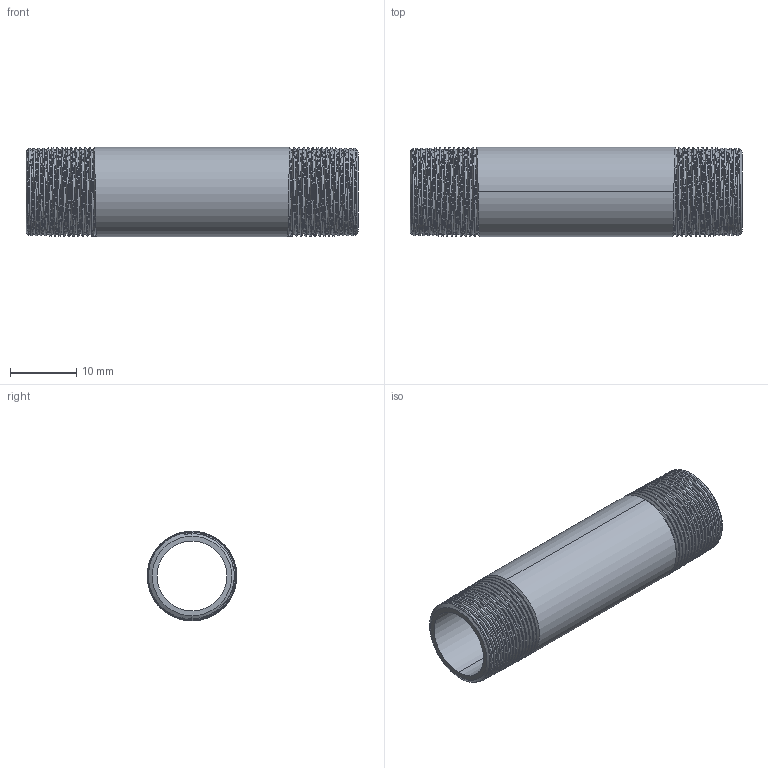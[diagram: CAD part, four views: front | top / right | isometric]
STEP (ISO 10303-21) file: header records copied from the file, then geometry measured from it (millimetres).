
FILE_DESCRIPTION (( 'STEP AP203' ), '1' );
FILE_NAME ('3D_R210_1-4x50_17185662.STEP', '2024-08-16T11:03:28', ( '' ), ( '' ), 'SwSTEP 2.0', 'SolidWorks 2024', '' );
FILE_SCHEMA (( 'CONFIG_CONTROL_DESIGN' ));
Length unit declared in the file: millimetre
Products named in the file (1): 3D_R210_1-4x50_17185662
Bounding box: 50 x 13.49 x 13.5 mm (x, y, z)
Volume: 2630.8 mm3; surface area: 4211 mm2
Topology: 1 solids, 1 shells, 76 faces, 216 edges, 142 vertices
Faces by surface type: cone 62, bspline 6, cylinder 4, plane 4
Entity records: 10859 total; most frequent: CARTESIAN_POINT 9099, ORIENTED_EDGE 432, DIRECTION 230, EDGE_CURVE 216, VERTEX_POINT 142, B_SPLINE_CURVE_WITH_KNOTS 130, AXIS2_PLACEMENT_3D 81, EDGE_LOOP 78
